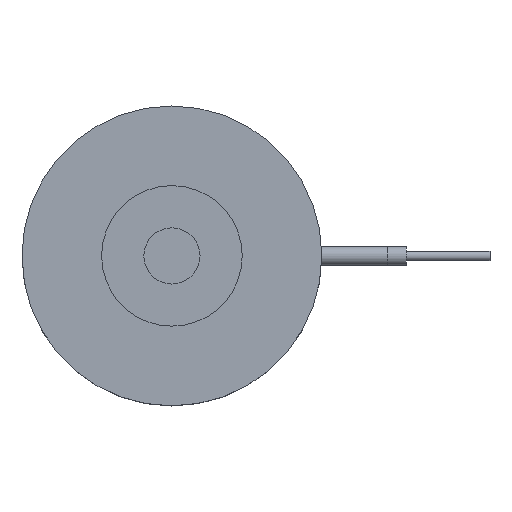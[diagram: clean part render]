
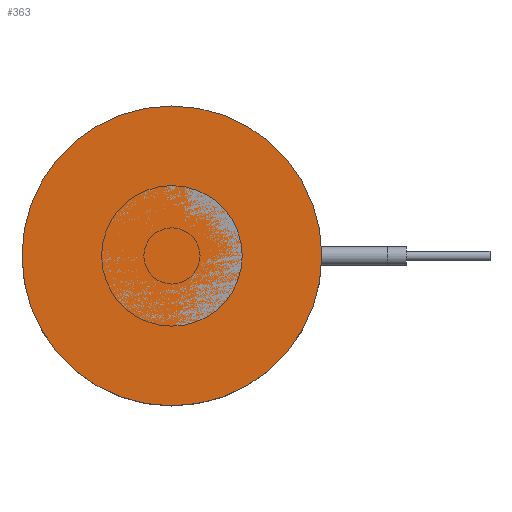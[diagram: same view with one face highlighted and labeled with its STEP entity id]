
A CAD part, top view. The second image highlights one B-rep face of the part: STEP entity #363.
In plain terms, the highlighted planar face has unit normal (0, 0, 1).
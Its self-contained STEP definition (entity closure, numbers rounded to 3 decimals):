
#219=PLANE('',#1254);
#274=FACE_OUTER_BOUND('',#595,.T.);
#363=ADVANCED_FACE('',(#274),#219,.F.);
#595=EDGE_LOOP('',(#817));
#817=ORIENTED_EDGE('',*,*,#1026,.F.);
#914=VERTEX_POINT('',#2005);
#1026=EDGE_CURVE('',#914,#914,#1101,.T.);
#1101=CIRCLE('',#1253,16.);
#1253=AXIS2_PLACEMENT_3D('',#2004,#1586,#1587);
#1254=AXIS2_PLACEMENT_3D('',#2006,#1588,#1589);
#1586=DIRECTION('',(0.,0.,-1.));
#1587=DIRECTION('',(-1.,0.,0.));
#1588=DIRECTION('',(0.,0.,-1.));
#1589=DIRECTION('',(-1.,0.,0.));
#2004=CARTESIAN_POINT('',(0.,0.,0.));
#2005=CARTESIAN_POINT('',(-16.,0.,0.));
#2006=CARTESIAN_POINT('',(0.,0.,0.));
